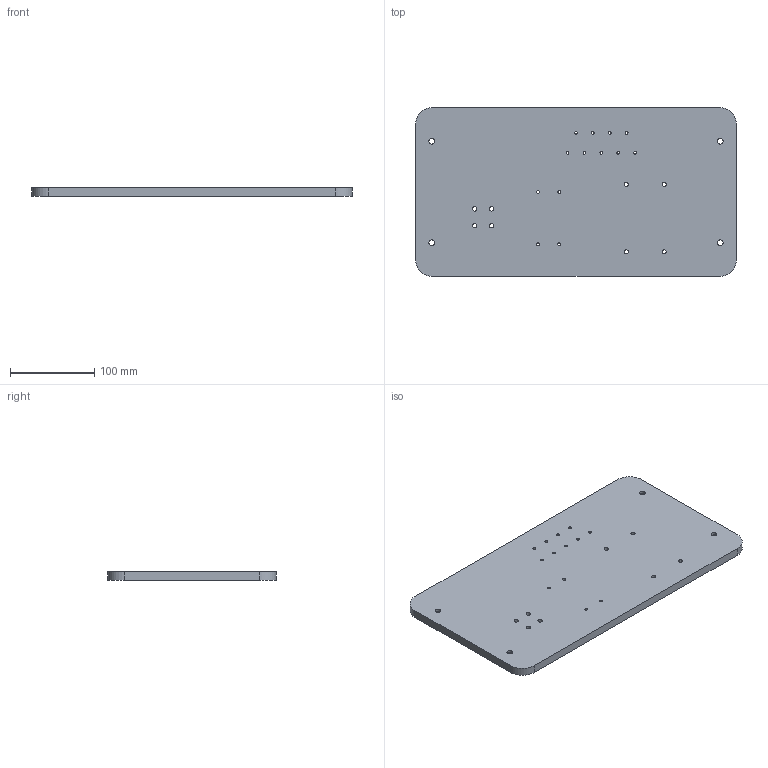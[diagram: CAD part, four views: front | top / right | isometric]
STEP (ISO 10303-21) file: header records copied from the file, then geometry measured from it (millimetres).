
FILE_DESCRIPTION (( 'STEP AP214' ), '1' );
FILE_NAME ('GZ26.02_V1底座.STEP', '2021-03-30T08:51:19', ( '微软中国' ), ( 'Microsoft' ), 'SwSTEP 2.0', 'SolidWorks 2017', '' );
FILE_SCHEMA (( 'AUTOMOTIVE_DESIGN' ));
Length unit declared in the file: millimetre
Products named in the file (1): GZ26.02_V1菁釱
Bounding box: 380 x 200 x 10 mm (x, y, z)
Volume: 749540.7 mm3; surface area: 165903.2 mm2
Topology: 1 solids, 1 shells, 84 faces, 222 edges, 148 vertices
Faces by surface type: cylinder 70, plane 14
Entity records: 3194 total; most frequent: DIRECTION 532, CARTESIAN_POINT 455, ORIENTED_EDGE 444, AXIS2_PLACEMENT_3D 225, EDGE_CURVE 222, VERTEX_POINT 148, EDGE_LOOP 142, CIRCLE 140
